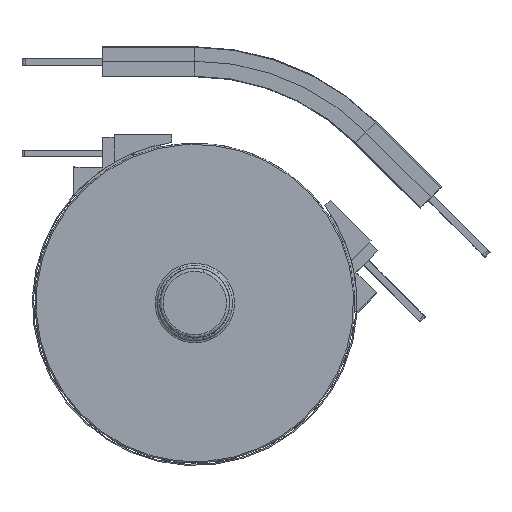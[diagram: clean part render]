
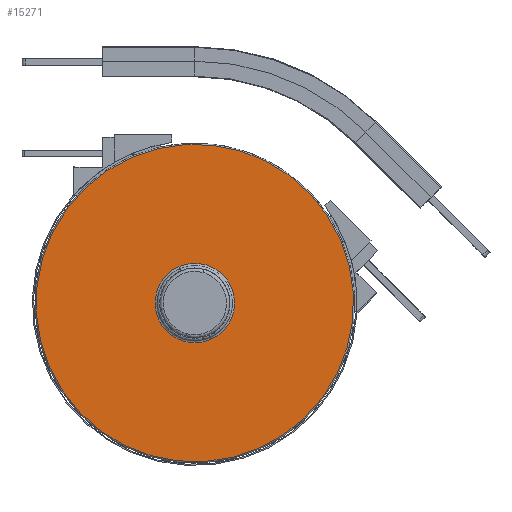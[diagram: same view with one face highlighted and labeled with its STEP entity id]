
A CAD part, front view. The second image highlights one B-rep face of the part: STEP entity #15271.
In plain terms, the highlighted planar face has unit normal (0, -1, 0) as drawn and (0, 0, 1) by its records, which use the part's own axes.
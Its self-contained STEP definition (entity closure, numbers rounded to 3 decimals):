
#3186 = FACE_OUTER_BOUND ( 'NONE', #16258, .T. ) ;
#3196 = CARTESIAN_POINT ( 'NONE',  ( 981.95, 0., 21.9 ) ) ;
#3203 = FACE_BOUND ( 'NONE', #16257, .T. ) ;
#3205 = PLANE ( 'NONE',  #23541 ) ;
#3207 = DIRECTION ( 'NONE',  ( 0., 0., 1. ) ) ;
#3209 = DIRECTION ( 'NONE',  ( 1., 0., 0. ) ) ;
#8453 = CIRCLE ( 'NONE', #8496, 34.5 ) ;
#8457 = AXIS2_PLACEMENT_3D ( 'NONE', #9173, #9174, #9175 ) ;
#8470 = CIRCLE ( 'NONE', #8457, 137.8 ) ;
#8496 = AXIS2_PLACEMENT_3D ( 'NONE', #9577, #9578, #9579 ) ;
#9173 = CARTESIAN_POINT ( 'NONE',  ( 895.8, 0., 21.9 ) ) ;
#9174 = DIRECTION ( 'NONE',  ( 0., 0., 1. ) ) ;
#9175 = DIRECTION ( 'NONE',  ( 0., 1., 0. ) ) ;
#9577 = CARTESIAN_POINT ( 'NONE',  ( 895.8, 0., 21.9 ) ) ;
#9578 = DIRECTION ( 'NONE',  ( 0., 0., -1. ) ) ;
#9579 = DIRECTION ( 'NONE',  ( -1., 0., 0. ) ) ;
#13801 = CARTESIAN_POINT ( 'NONE',  ( 895.8, 0., 21.9 ) ) ;
#13802 = DIRECTION ( 'NONE',  ( 0., 0., -1. ) ) ;
#13803 = DIRECTION ( 'NONE',  ( -1., 0., 0. ) ) ;
#14216 = CARTESIAN_POINT ( 'NONE',  ( 930.3, 0., 21.9 ) ) ;
#14217 = CARTESIAN_POINT ( 'NONE',  ( 895.8, 137.8, 21.9 ) ) ;
#14218 = CARTESIAN_POINT ( 'NONE',  ( 895.8, -137.8, 21.9 ) ) ;
#14219 = CARTESIAN_POINT ( 'NONE',  ( 861.3, 0., 21.9 ) ) ;
#15217 = EDGE_CURVE ( 'NONE', #23257, #23256, #8470, .T. ) ;
#15243 = EDGE_CURVE ( 'NONE', #23255, #23258, #8453, .T. ) ;
#15271 = ADVANCED_FACE ( 'NONE', ( #3186, #3203 ), #3205, .T. ) ;
#16257 = EDGE_LOOP ( 'NONE', ( #22870, #22918 ) ) ;
#16258 = EDGE_LOOP ( 'NONE', ( #21138, #20933 ) ) ;
#17640 = CARTESIAN_POINT ( 'NONE',  ( 895.8, 0., 21.9 ) ) ;
#17641 = DIRECTION ( 'NONE',  ( 0., 0., 1. ) ) ;
#17642 = DIRECTION ( 'NONE',  ( 0., 1., 0. ) ) ;
#20933 = ORIENTED_EDGE ( 'NONE', *, *, #15217, .T. ) ;
#21138 = ORIENTED_EDGE ( 'NONE', *, *, #22801, .T. ) ;
#22801 = EDGE_CURVE ( 'NONE', #23256, #23257, #24725, .T. ) ;
#22830 = EDGE_CURVE ( 'NONE', #23258, #23255, #24769, .T. ) ;
#22870 = ORIENTED_EDGE ( 'NONE', *, *, #22830, .T. ) ;
#22918 = ORIENTED_EDGE ( 'NONE', *, *, #15243, .T. ) ;
#23255 = VERTEX_POINT ( 'NONE', #14216 ) ;
#23256 = VERTEX_POINT ( 'NONE', #14217 ) ;
#23257 = VERTEX_POINT ( 'NONE', #14218 ) ;
#23258 = VERTEX_POINT ( 'NONE', #14219 ) ;
#23541 = AXIS2_PLACEMENT_3D ( 'NONE', #3196, #3207, #3209 ) ;
#24725 = CIRCLE ( 'NONE', #24728, 137.8 ) ;
#24728 = AXIS2_PLACEMENT_3D ( 'NONE', #17640, #17641, #17642 ) ;
#24769 = CIRCLE ( 'NONE', #24772, 34.5 ) ;
#24772 = AXIS2_PLACEMENT_3D ( 'NONE', #13801, #13802, #13803 ) ;
